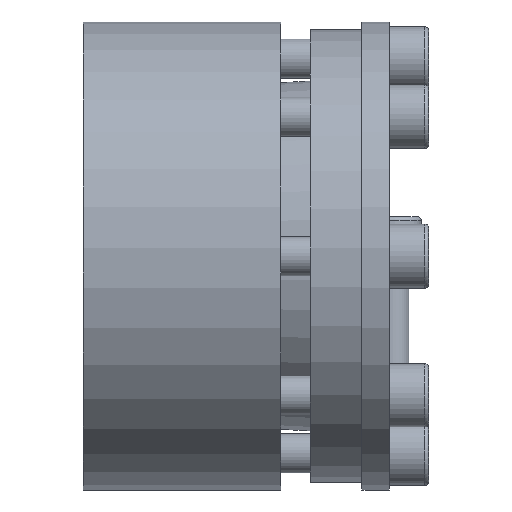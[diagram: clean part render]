
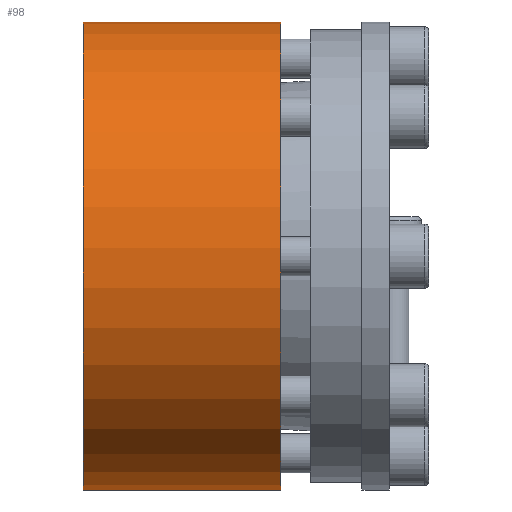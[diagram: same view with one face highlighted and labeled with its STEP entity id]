
A CAD part, left-side view. The second image highlights one B-rep face of the part: STEP entity #98.
In plain terms, the highlighted cylindrical face has radius 47.5 mm (diameter 95 mm), a partial arc.
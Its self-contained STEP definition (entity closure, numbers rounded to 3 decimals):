
#98 = ADVANCED_FACE( '', ( #225 ), #226, .T. );
#225 = FACE_OUTER_BOUND( '', #393, .T. );
#226 = CYLINDRICAL_SURFACE( '', #394, 47.5 );
#393 = EDGE_LOOP( '', ( #636, #637, #638, #639 ) );
#394 = AXIS2_PLACEMENT_3D( '', #640, #641, #642 );
#636 = ORIENTED_EDGE( '', *, *, #899, .F. );
#637 = ORIENTED_EDGE( '', *, *, #872, .T. );
#638 = ORIENTED_EDGE( '', *, *, #902, .T. );
#639 = ORIENTED_EDGE( '', *, *, #903, .T. );
#640 = CARTESIAN_POINT( '', ( 0., -60., 0. ) );
#641 = DIRECTION( '', ( 0., 1., 0. ) );
#642 = DIRECTION( '', ( 0., 0., -1. ) );
#872 = EDGE_CURVE( '', #1057, #1055, #1058, .F. );
#899 = EDGE_CURVE( '', #1057, #1102, #1103, .T. );
#902 = EDGE_CURVE( '', #1055, #1106, #1107, .T. );
#903 = EDGE_CURVE( '', #1106, #1102, #1108, .T. );
#1055 = VERTEX_POINT( '', #1365 );
#1057 = VERTEX_POINT( '', #1368 );
#1058 = LINE( '', #1369, #1370 );
#1102 = VERTEX_POINT( '', #1423 );
#1103 = CIRCLE( '', #1424, 47.5 );
#1106 = VERTEX_POINT( '', #1428 );
#1107 = CIRCLE( '', #1429, 47.5 );
#1108 = LINE( '', #1430, #1431 );
#1365 = CARTESIAN_POINT( '', ( 17.296, 62., 44.239 ) );
#1368 = CARTESIAN_POINT( '', ( 17.296, 22., 44.239 ) );
#1369 = CARTESIAN_POINT( '', ( 17.296, -60., 44.239 ) );
#1370 = VECTOR( '', #1580, 1000. );
#1423 = CARTESIAN_POINT( '', ( 19.052, 22., 43.512 ) );
#1424 = AXIS2_PLACEMENT_3D( '', #1626, #1627, #1628 );
#1428 = CARTESIAN_POINT( '', ( 19.052, 62., 43.512 ) );
#1429 = AXIS2_PLACEMENT_3D( '', #1630, #1631, #1632 );
#1430 = CARTESIAN_POINT( '', ( 19.052, -60., 43.512 ) );
#1431 = VECTOR( '', #1633, 1000. );
#1580 = DIRECTION( '', ( 0., -1., 0. ) );
#1626 = CARTESIAN_POINT( '', ( 0., 22., 0. ) );
#1627 = DIRECTION( '', ( 0., -1., 0. ) );
#1628 = DIRECTION( '', ( 0., 0., -1. ) );
#1630 = CARTESIAN_POINT( '', ( 0., 62., 0. ) );
#1631 = DIRECTION( '', ( 0., -1., 0. ) );
#1632 = DIRECTION( '', ( 0., 0., -1. ) );
#1633 = DIRECTION( '', ( 0., -1., 0. ) );
